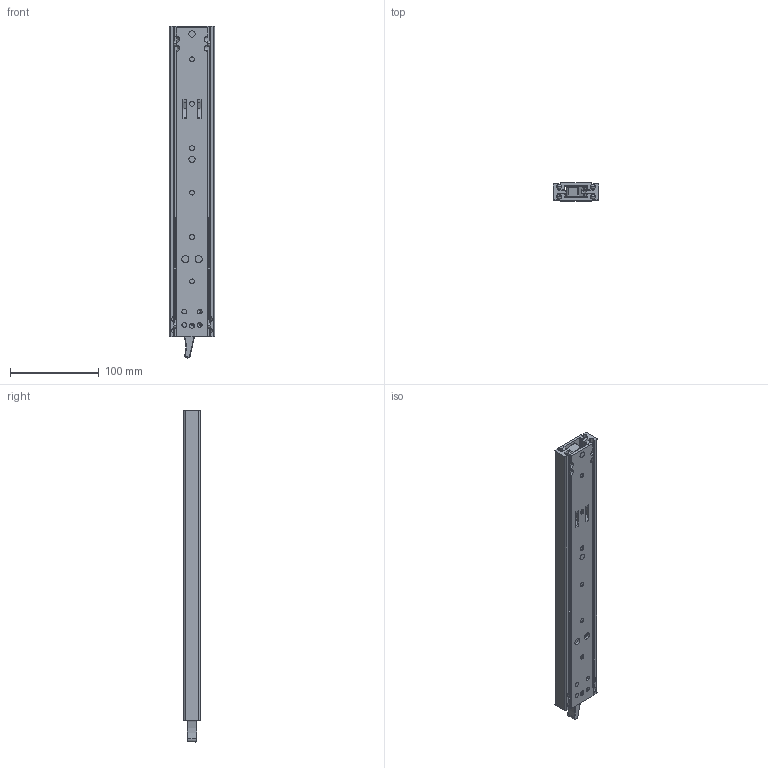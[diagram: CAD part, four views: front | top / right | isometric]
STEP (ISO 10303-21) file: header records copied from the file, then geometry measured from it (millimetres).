
FILE_DESCRIPTION (( 'STEP AP214' ), '1' );
FILE_NAME ('220-350-closed.STEP', '2024-08-20T10:51:09', ( '' ), ( '' ), 'SwSTEP 2.0', 'SolidWorks 2024', '' );
FILE_SCHEMA (( 'AUTOMOTIVE_DESIGN' ));
Length unit declared in the file: millimetre
Products named in the file (12): 61_12282_2.STEP_Part26; 61_12274_2.STEP_Part28; 61_12280_04_Beam Assembled - Stop Raises .STEP_Part24; 370_002_070_2.STEP_Part29; 61_12284_04_closed.STEP_Assem5; 61_12279_04.STEP_Part23; 61_12278_05.STEP_Part32; 61_12276_2.STEP_Part33; 301_000_008_Fitted_2.STEP_Part27; 220-350-closed; 61_13331_Pin Fitted_2.STEP_Part25; 400_000_004_2.STEP_Part31
Assembly tree (26 placements, depth 3):
  220-350-closed
    61_12284_04_closed.STEP_Assem5
      61_12279_04.STEP_Part23
      61_12280_04_Beam Assembled - Stop Raises .STEP_Part24  x2
      61_13331_Pin Fitted_2.STEP_Part25  x4
      61_12282_2.STEP_Part26
      301_000_008_Fitted_2.STEP_Part27  x2
      61_12274_2.STEP_Part28
      370_002_070_2.STEP_Part29
      400_000_004_2.STEP_Part31  x8
      61_12278_05.STEP_Part32  x4
      61_12276_2.STEP_Part33
Bounding box: 50.7 x 19.75 x 373.69 mm (x, y, z)
Volume: 202367.1 mm3; surface area: 140846.7 mm2
Topology: 25 solids, 25 shells, 1189 faces, 3073 edges, 1904 vertices
Faces by surface type: cylinder 526, plane 271, sphere 193, torus 77, cone 76, bspline 46
Entity records: 27881 total; most frequent: CARTESIAN_POINT 8635, DIRECTION 4124, ORIENTED_EDGE 3918, EDGE_CURVE 1959, AXIS2_PLACEMENT_3D 1642, VERTEX_POINT 1209, CIRCLE 889, EDGE_LOOP 870
